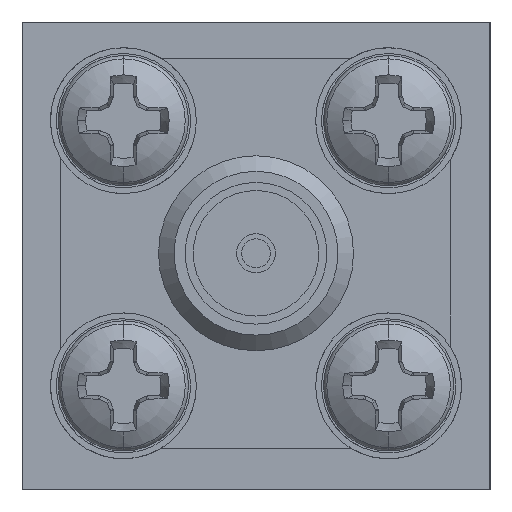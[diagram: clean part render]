
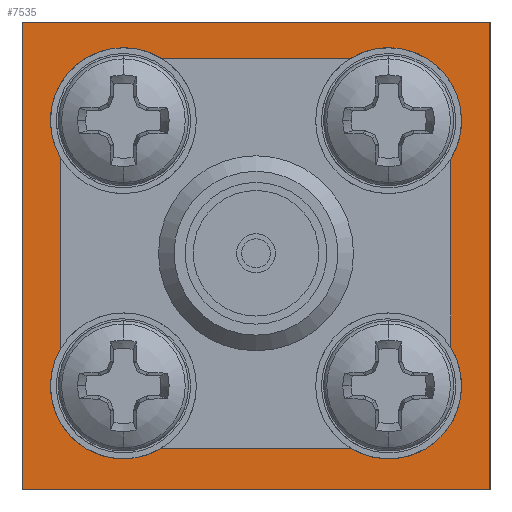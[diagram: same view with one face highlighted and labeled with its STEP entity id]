
A CAD part, left-side view. The second image highlights one B-rep face of the part: STEP entity #7535.
In plain terms, the highlighted planar face has unit normal (-1, 0, 0).
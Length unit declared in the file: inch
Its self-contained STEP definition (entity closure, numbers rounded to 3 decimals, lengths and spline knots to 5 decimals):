
#519=FACE_BOUND('',#1513,.T.);
#554=CIRCLE('',#7974,0.3125);
#555=CIRCLE('',#7975,0.3125);
#556=CIRCLE('',#7976,0.3125);
#557=CIRCLE('',#7977,0.3125);
#1079=FACE_OUTER_BOUND('',#1512,.T.);
#1512=EDGE_LOOP('',(#4912,#4913,#4914,#4915));
#1513=EDGE_LOOP('',(#4916,#4917,#4918,#4919,#4920,#4921,#4922,#4923));
#1982=LINE('',#11319,#2422);
#1983=LINE('',#11321,#2423);
#1984=LINE('',#11323,#2424);
#1985=LINE('',#11324,#2425);
#1986=LINE('',#11329,#2426);
#1987=LINE('',#11333,#2427);
#1988=LINE('',#11337,#2428);
#1989=LINE('',#11340,#2429);
#2422=VECTOR('',#8950,1.);
#2423=VECTOR('',#8951,1.);
#2424=VECTOR('',#8952,1.);
#2425=VECTOR('',#8953,1.);
#2426=VECTOR('',#8956,1.);
#2427=VECTOR('',#8959,1.);
#2428=VECTOR('',#8962,1.);
#2429=VECTOR('',#8965,1.);
#2866=VERTEX_POINT('',#11317);
#2867=VERTEX_POINT('',#11318);
#2868=VERTEX_POINT('',#11320);
#2869=VERTEX_POINT('',#11322);
#2870=VERTEX_POINT('',#11325);
#2871=VERTEX_POINT('',#11326);
#2872=VERTEX_POINT('',#11328);
#2873=VERTEX_POINT('',#11330);
#2874=VERTEX_POINT('',#11332);
#2875=VERTEX_POINT('',#11334);
#2876=VERTEX_POINT('',#11336);
#2877=VERTEX_POINT('',#11338);
#3688=EDGE_CURVE('',#2866,#2867,#1982,.T.);
#3689=EDGE_CURVE('',#2866,#2868,#1983,.T.);
#3690=EDGE_CURVE('',#2869,#2868,#1984,.T.);
#3691=EDGE_CURVE('',#2867,#2869,#1985,.T.);
#3692=EDGE_CURVE('',#2870,#2871,#554,.T.);
#3693=EDGE_CURVE('',#2871,#2872,#1986,.T.);
#3694=EDGE_CURVE('',#2872,#2873,#555,.T.);
#3695=EDGE_CURVE('',#2873,#2874,#1987,.T.);
#3696=EDGE_CURVE('',#2874,#2875,#556,.T.);
#3697=EDGE_CURVE('',#2875,#2876,#1988,.T.);
#3698=EDGE_CURVE('',#2876,#2877,#557,.T.);
#3699=EDGE_CURVE('',#2877,#2870,#1989,.T.);
#4912=ORIENTED_EDGE('',*,*,#3688,.F.);
#4913=ORIENTED_EDGE('',*,*,#3689,.T.);
#4914=ORIENTED_EDGE('',*,*,#3690,.F.);
#4915=ORIENTED_EDGE('',*,*,#3691,.F.);
#4916=ORIENTED_EDGE('',*,*,#3692,.T.);
#4917=ORIENTED_EDGE('',*,*,#3693,.T.);
#4918=ORIENTED_EDGE('',*,*,#3694,.T.);
#4919=ORIENTED_EDGE('',*,*,#3695,.T.);
#4920=ORIENTED_EDGE('',*,*,#3696,.T.);
#4921=ORIENTED_EDGE('',*,*,#3697,.T.);
#4922=ORIENTED_EDGE('',*,*,#3698,.T.);
#4923=ORIENTED_EDGE('',*,*,#3699,.T.);
#7349=PLANE('',#7973);
#7535=ADVANCED_FACE('',(#1079,#519),#7349,.T.);
#7973=AXIS2_PLACEMENT_3D('',#11316,#8948,#8949);
#7974=AXIS2_PLACEMENT_3D('',#11327,#8954,#8955);
#7975=AXIS2_PLACEMENT_3D('',#11331,#8957,#8958);
#7976=AXIS2_PLACEMENT_3D('',#11335,#8960,#8961);
#7977=AXIS2_PLACEMENT_3D('',#11339,#8963,#8964);
#8948=DIRECTION('center_axis',(-1.,0.,0.));
#8949=DIRECTION('ref_axis',(0.,-1.,0.));
#8950=DIRECTION('',(0.,1.,0.));
#8951=DIRECTION('',(0.,0.,1.));
#8952=DIRECTION('',(0.,-1.,0.));
#8953=DIRECTION('',(0.,0.,1.));
#8954=DIRECTION('center_axis',(1.,0.,0.));
#8955=DIRECTION('ref_axis',(0.,0.707,-0.707));
#8956=DIRECTION('',(0.,0.,1.));
#8957=DIRECTION('center_axis',(1.,0.,0.));
#8958=DIRECTION('ref_axis',(0.,0.707,0.707));
#8959=DIRECTION('',(0.,-1.,0.));
#8960=DIRECTION('center_axis',(1.,0.,0.));
#8961=DIRECTION('ref_axis',(0.,-0.707,0.707));
#8962=DIRECTION('',(0.,0.,-1.));
#8963=DIRECTION('center_axis',(1.,0.,0.));
#8964=DIRECTION('ref_axis',(0.,-0.707,-0.707));
#8965=DIRECTION('',(0.,1.,0.));
#11316=CARTESIAN_POINT('Origin',(0.,0.6,0.));
#11317=CARTESIAN_POINT('',(0.,0.,0.));
#11318=CARTESIAN_POINT('',(0.,0.6,0.));
#11319=CARTESIAN_POINT('',(0.,0.,0.));
#11320=CARTESIAN_POINT('',(0.,0.,0.6));
#11321=CARTESIAN_POINT('',(0.,0.,0.));
#11322=CARTESIAN_POINT('',(0.,0.6,0.6));
#11323=CARTESIAN_POINT('',(0.,0.,0.6));
#11324=CARTESIAN_POINT('',(0.,0.6,0.));
#11325=CARTESIAN_POINT('',(0.,0.4875,0.0535));
#11326=CARTESIAN_POINT('',(0.,0.55,0.116));
#11327=CARTESIAN_POINT('Origin',(0.,0.3,
0.3035));
#11328=CARTESIAN_POINT('',(0.,0.55,0.491));
#11329=CARTESIAN_POINT('',(0.,0.55,0.116));
#11330=CARTESIAN_POINT('',(0.,0.4875,0.5535));
#11331=CARTESIAN_POINT('Origin',(0.,0.3,
0.3035));
#11332=CARTESIAN_POINT('',(0.,0.1125,0.5535));
#11333=CARTESIAN_POINT('',(0.,0.4875,0.5535));
#11334=CARTESIAN_POINT('',(0.,0.05,0.491));
#11335=CARTESIAN_POINT('Origin',(0.,0.3,
0.3035));
#11336=CARTESIAN_POINT('',(0.,0.05,0.116));
#11337=CARTESIAN_POINT('',(0.,0.05,0.491));
#11338=CARTESIAN_POINT('',(0.,0.1125,0.0535));
#11339=CARTESIAN_POINT('Origin',(0.,0.3,
0.3035));
#11340=CARTESIAN_POINT('',(0.,0.1125,0.0535));
